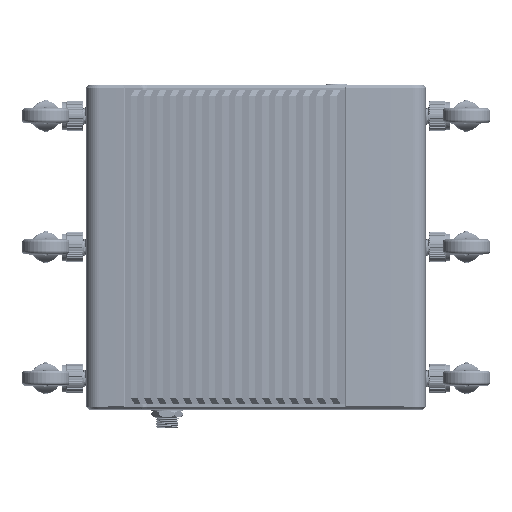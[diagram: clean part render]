
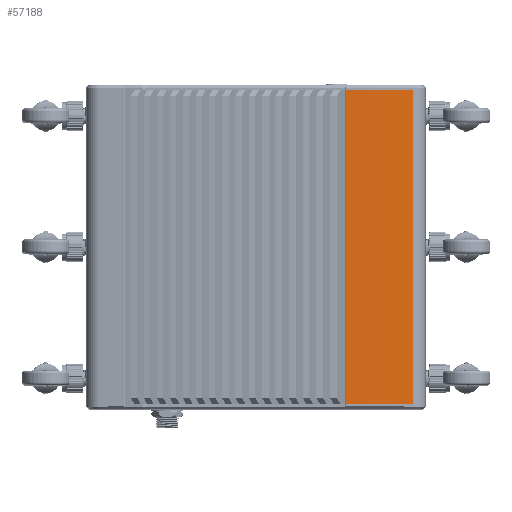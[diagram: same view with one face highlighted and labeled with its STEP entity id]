
A CAD part, top view. The second image highlights one B-rep face of the part: STEP entity #57188.
In plain terms, the highlighted cylindrical face has radius 539.6 mm (diameter 1079.2 mm), a partial arc.
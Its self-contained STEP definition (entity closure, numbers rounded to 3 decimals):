
#24713=CYLINDRICAL_SURFACE('',#489054,539.6);
#32840=CIRCLE('',#487730,539.6);
#32951=CIRCLE('',#487842,539.6);
#57188=ADVANCED_FACE('',(#96785),#24713,.T.);
#96785=FACE_OUTER_BOUND('',#123670,.T.);
#123670=EDGE_LOOP('',(#237085,#237086,#237087,#237088));
#237085=ORIENTED_EDGE('',*,*,#356240,.F.);
#237086=ORIENTED_EDGE('',*,*,#358028,.T.);
#237087=ORIENTED_EDGE('',*,*,#356473,.T.);
#237088=ORIENTED_EDGE('',*,*,#358029,.T.);
#295020=VERTEX_POINT('',#945842);
#295021=VERTEX_POINT('',#945844);
#295252=VERTEX_POINT('',#946309);
#295253=VERTEX_POINT('',#946310);
#356240=EDGE_CURVE('',#295020,#295021,#32840,.T.);
#356473=EDGE_CURVE('',#295252,#295253,#32951,.T.);
#358028=EDGE_CURVE('',#295020,#295252,#407626,.T.);
#358029=EDGE_CURVE('',#295253,#295021,#407627,.T.);
#407626=LINE('',#950272,#456094);
#407627=LINE('',#950273,#456095);
#456094=VECTOR('',#586510,1.);
#456095=VECTOR('',#586511,1.);
#487730=AXIS2_PLACEMENT_3D('',#945843,#582861,#582862);
#487842=AXIS2_PLACEMENT_3D('',#946308,#583207,#583208);
#489054=AXIS2_PLACEMENT_3D('',#950274,#586512,#586513);
#582861=DIRECTION('',(0.,-1.,0.));
#582862=DIRECTION('',(0.,0.,1.));
#583207=DIRECTION('',(0.,-1.,0.));
#583208=DIRECTION('',(0.,0.,-1.));
#586510=DIRECTION('',(0.,1.,0.));
#586511=DIRECTION('',(0.,-1.,0.));
#586512=DIRECTION('',(0.,-1.,0.));
#586513=DIRECTION('',(0.,0.,-1.));
#945842=CARTESIAN_POINT('',(99.423,-6.414,20.887));
#945843=CARTESIAN_POINT('',(45.423,-6.414,-516.004));
#945844=CARTESIAN_POINT('',(76.604,-6.414,22.694));
#946308=CARTESIAN_POINT('',(45.423,101.584,-516.004));
#946309=CARTESIAN_POINT('',(99.423,101.584,20.887));
#946310=CARTESIAN_POINT('',(76.604,101.584,22.694));
#950272=CARTESIAN_POINT('',(99.423,101.884,20.887));
#950273=CARTESIAN_POINT('',(76.604,101.884,22.694));
#950274=CARTESIAN_POINT('',(45.423,101.884,-516.004));
